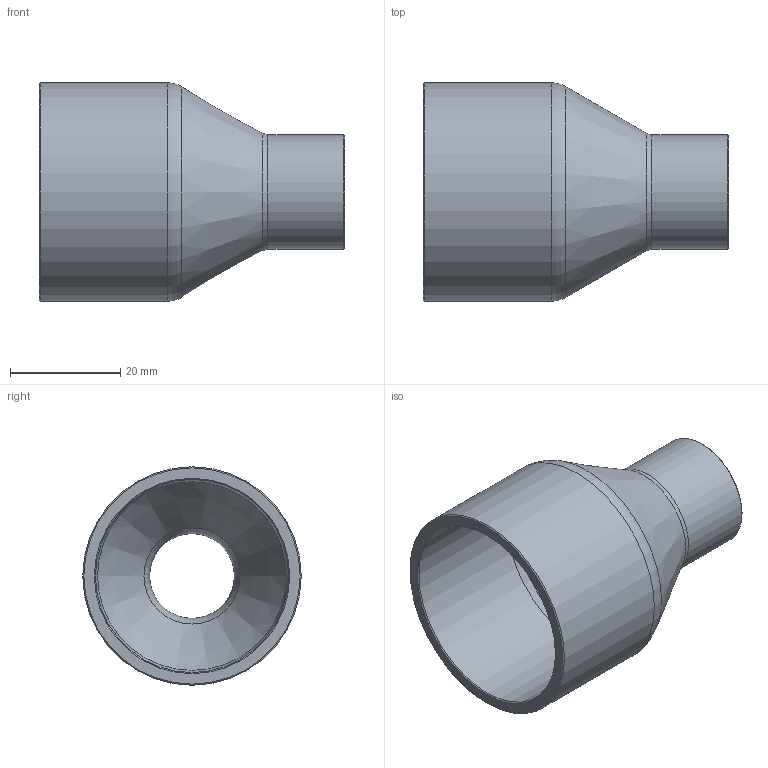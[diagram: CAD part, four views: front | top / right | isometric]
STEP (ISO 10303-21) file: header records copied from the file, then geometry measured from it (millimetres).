
FILE_DESCRIPTION((''),'2;1');
FILE_NAME('G:\SANHA-Ternat\Technik\Management\Bouwmaten + markeringen\z-maattekeningen 3D\29000s\2924013858_3d.stp','2017-08-04T11:12:57',('vdvijverd'),(''),'Autodesk Inventor 2009','Autodesk Inventor 2009','');
FILE_SCHEMA(('AUTOMOTIVE_DESIGN { 1 0 10303 214 1 1 1 1 }'));
Length unit declared in the file: millimetre
Products named in the file (1): 2924013858_3d
Bounding box: 55.5 x 39.7 x 39.7 mm (x, y, z)
Volume: 12979 mm3; surface area: 11066.1 mm2
Topology: 1 solids, 1 shells, 17 faces, 32 edges, 17 vertices
Faces by surface type: cone 6, cylinder 4, bspline 3, plane 2, torus 2
Full cylindrical faces by diameter (mm): 15.995 x1, 20.795 x1, 35.105 x1, 39.705 x1
Entity records: 494 total; most frequent: CARTESIAN_POINT 184, DIRECTION 64, ORIENTED_EDGE 34, EDGE_LOOP 34, AXIS2_PLACEMENT_3D 32, VERTEX_POINT 17, CIRCLE 17, EDGE_CURVE 17
